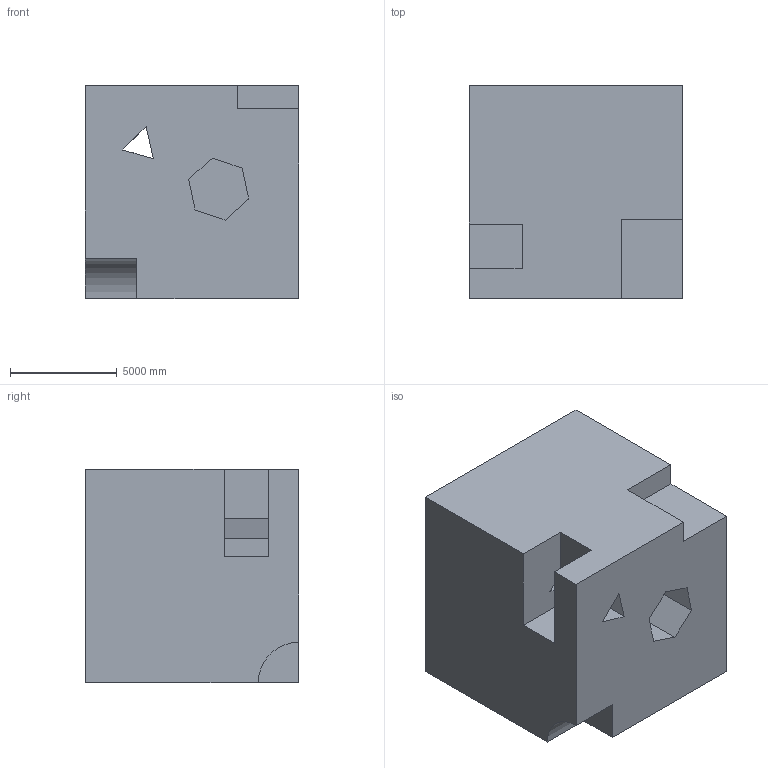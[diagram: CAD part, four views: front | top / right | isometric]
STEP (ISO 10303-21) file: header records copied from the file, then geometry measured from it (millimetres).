
FILE_DESCRIPTION (( 'STEP AP203' ), '1' );
FILE_NAME ('1461.STEP', '2022-08-18T14:36:56', ( 'user' ), ( '' ), 'SwSTEP 2.0', 'SolidWorks 2021', '' );
FILE_SCHEMA (( 'CONFIG_CONTROL_DESIGN' ));
Length unit declared in the file: centimetre
Products named in the file (1): 1461
Bounding box: 10000 x 10000 x 10000 mm (x, y, z)
Volume: 903201285846 mm3; surface area: 730742957.2 mm2
Topology: 1 solids, 1 shells, 26 faces, 75 edges, 50 vertices
Faces by surface type: plane 25, cylinder 1
Entity records: 926 total; most frequent: CARTESIAN_POINT 152, ORIENTED_EDGE 150, DIRECTION 131, EDGE_CURVE 75, VECTOR 73, LINE 73, VERTEX_POINT 50, EDGE_LOOP 29
